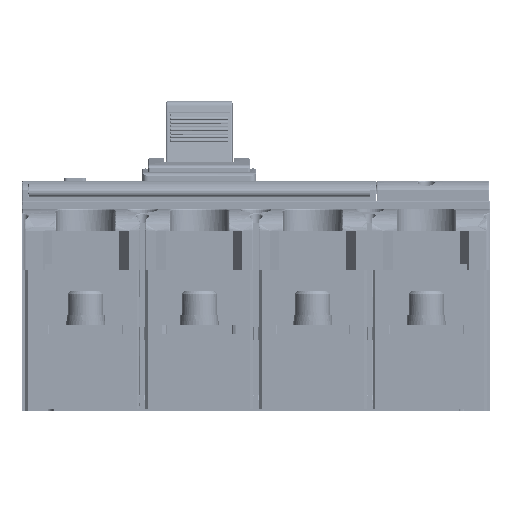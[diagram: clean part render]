
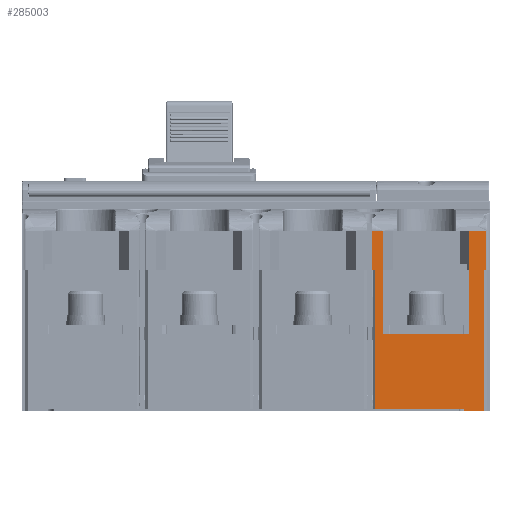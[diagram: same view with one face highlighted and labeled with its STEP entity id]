
A CAD part, front view. The second image highlights one B-rep face of the part: STEP entity #285003.
In plain terms, the highlighted planar face has unit normal (0, -1, 0) as drawn and (0, 0, 1) by its records, which use the part's own axes.
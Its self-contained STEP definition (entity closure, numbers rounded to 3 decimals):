
#503 = CARTESIAN_POINT ( 'NONE',  ( 135., 0., 135. ) ) ;
#4147 = EDGE_CURVE ( 'NONE', #15984, #69486, #223379, .T. ) ;
#5240 = DIRECTION ( 'NONE',  ( 1., 0., 0. ) ) ;
#9346 = ORIENTED_EDGE ( 'NONE', *, *, #260000, .F. ) ;
#10702 = CARTESIAN_POINT ( 'NONE',  ( 90., 72., 135. ) ) ;
#10705 = LINE ( 'NONE', #258005, #143796 ) ;
#15984 = VERTEX_POINT ( 'NONE', #43096 ) ;
#19915 = CARTESIAN_POINT ( 'NONE',  ( 146.6, 92., 135. ) ) ;
#20296 = CARTESIAN_POINT ( 'NONE',  ( 145.5, 0., 135. ) ) ;
#27821 = EDGE_CURVE ( 'NONE', #268840, #84584, #82806, .T. ) ;
#28002 = CARTESIAN_POINT ( 'NONE',  ( 138., 92., 135. ) ) ;
#31039 = CARTESIAN_POINT ( 'NONE',  ( 146.6, 72., 135. ) ) ;
#37115 = DIRECTION ( 'NONE',  ( 1., 0., 0. ) ) ;
#38114 = DIRECTION ( 'NONE',  ( 1., 0., 0. ) ) ;
#40074 = CARTESIAN_POINT ( 'NONE',  ( 135., 0., 135. ) ) ;
#40513 = VERTEX_POINT ( 'NONE', #220543 ) ;
#43096 = CARTESIAN_POINT ( 'NONE',  ( 135., 0., 135. ) ) ;
#47965 = VECTOR ( 'NONE', #214110, 1000. ) ;
#48533 = CARTESIAN_POINT ( 'NONE',  ( 90., 1., 135. ) ) ;
#54876 = ORIENTED_EDGE ( 'NONE', *, *, #4147, .F. ) ;
#55704 = LINE ( 'NONE', #302915, #101715 ) ;
#55745 = LINE ( 'NONE', #127353, #220468 ) ;
#55862 = VECTOR ( 'NONE', #58241, 1000. ) ;
#56629 = LINE ( 'NONE', #125026, #55862 ) ;
#58241 = DIRECTION ( 'NONE',  ( 0., 1., 0. ) ) ;
#60079 = VECTOR ( 'NONE', #38114, 1000. ) ;
#61250 = EDGE_CURVE ( 'NONE', #69486, #288305, #185652, .T. ) ;
#62880 = VERTEX_POINT ( 'NONE', #77956 ) ;
#64767 = CARTESIAN_POINT ( 'NONE',  ( 88.4, 92., 135. ) ) ;
#65238 = DIRECTION ( 'NONE',  ( -1., 0., 0. ) ) ;
#67462 = EDGE_CURVE ( 'NONE', #268840, #196306, #147152, .T. ) ;
#67947 = LINE ( 'NONE', #64767, #178374 ) ;
#68780 = LINE ( 'NONE', #19915, #77497 ) ;
#69486 = VERTEX_POINT ( 'NONE', #123590 ) ;
#72862 = DIRECTION ( 'NONE',  ( 0., -1., 0. ) ) ;
#74390 = CARTESIAN_POINT ( 'NONE',  ( 94., 92., 135. ) ) ;
#75343 = EDGE_CURVE ( 'NONE', #310828, #84741, #56629, .T. ) ;
#75360 = DIRECTION ( 'NONE',  ( 0., 1., 0. ) ) ;
#77497 = VECTOR ( 'NONE', #314378, 1000. ) ;
#77956 = CARTESIAN_POINT ( 'NONE',  ( 146.6, 92., 135. ) ) ;
#81203 = CARTESIAN_POINT ( 'NONE',  ( 88.4, 72., 135. ) ) ;
#82806 = LINE ( 'NONE', #81203, #278290 ) ;
#84584 = VERTEX_POINT ( 'NONE', #10702 ) ;
#84741 = VERTEX_POINT ( 'NONE', #313158 ) ;
#86084 = EDGE_LOOP ( 'NONE', ( #9346, #175958, #300193, #176419, #320979, #250276, #154689, #54876, #202660, #197680, #229070, #150286, #245344, #258607 ) ) ;
#96804 = DIRECTION ( 'NONE',  ( 1., 0., 0. ) ) ;
#97324 = VECTOR ( 'NONE', #75360, 1000. ) ;
#101715 = VECTOR ( 'NONE', #5240, 1000. ) ;
#102415 = VECTOR ( 'NONE', #220842, 1000. ) ;
#109932 = DIRECTION ( 'NONE',  ( 0., -1., 0. ) ) ;
#116066 = VECTOR ( 'NONE', #247969, 1000. ) ;
#117962 = PLANE ( 'NONE',  #239671 ) ;
#119985 = CARTESIAN_POINT ( 'NONE',  ( 138., 92., 135. ) ) ;
#123590 = CARTESIAN_POINT ( 'NONE',  ( 135., 1., 135. ) ) ;
#125026 = CARTESIAN_POINT ( 'NONE',  ( 145.5, 0., 135. ) ) ;
#127353 = CARTESIAN_POINT ( 'NONE',  ( 94., 39., 135. ) ) ;
#141295 = VERTEX_POINT ( 'NONE', #74390 ) ;
#142776 = CARTESIAN_POINT ( 'NONE',  ( 88.4, 92., 135. ) ) ;
#143796 = VECTOR ( 'NONE', #109932, 1000. ) ;
#147152 = LINE ( 'NONE', #272395, #116066 ) ;
#150286 = ORIENTED_EDGE ( 'NONE', *, *, #215096, .F. ) ;
#154036 = EDGE_CURVE ( 'NONE', #84741, #211636, #208938, .T. ) ;
#154689 = ORIENTED_EDGE ( 'NONE', *, *, #61250, .F. ) ;
#156455 = CARTESIAN_POINT ( 'NONE',  ( 94., 39., 135. ) ) ;
#161284 = VECTOR ( 'NONE', #65238, 1000. ) ;
#163128 = EDGE_CURVE ( 'NONE', #196306, #141295, #67947, .T. ) ;
#165387 = VERTEX_POINT ( 'NONE', #156455 ) ;
#165394 = VERTEX_POINT ( 'NONE', #28002 ) ;
#170444 = LINE ( 'NONE', #119985, #102415 ) ;
#170502 = LINE ( 'NONE', #176886, #300362 ) ;
#175958 = ORIENTED_EDGE ( 'NONE', *, *, #306384, .T. ) ;
#175994 = EDGE_CURVE ( 'NONE', #165394, #40513, #170502, .T. ) ;
#176419 = ORIENTED_EDGE ( 'NONE', *, *, #67462, .F. ) ;
#176886 = CARTESIAN_POINT ( 'NONE',  ( 138., 92., 135. ) ) ;
#178374 = VECTOR ( 'NONE', #37115, 1000. ) ;
#181284 = EDGE_CURVE ( 'NONE', #15984, #310828, #285715, .T. ) ;
#182044 = DIRECTION ( 'NONE',  ( 1., 0., 0. ) ) ;
#185652 = LINE ( 'NONE', #260459, #161284 ) ;
#196306 = VERTEX_POINT ( 'NONE', #142776 ) ;
#196640 = EDGE_CURVE ( 'NONE', #84584, #288305, #10705, .T. ) ;
#197680 = ORIENTED_EDGE ( 'NONE', *, *, #75343, .T. ) ;
#202660 = ORIENTED_EDGE ( 'NONE', *, *, #181284, .T. ) ;
#208938 = LINE ( 'NONE', #308141, #60079 ) ;
#211636 = VERTEX_POINT ( 'NONE', #31039 ) ;
#214110 = DIRECTION ( 'NONE',  ( 1., 0., 0. ) ) ;
#215096 = EDGE_CURVE ( 'NONE', #62880, #211636, #68780, .T. ) ;
#217182 = DIRECTION ( 'NONE',  ( 0., 0., 1. ) ) ;
#220431 = FACE_OUTER_BOUND ( 'NONE', #86084, .T. ) ;
#220468 = VECTOR ( 'NONE', #221810, 1000. ) ;
#220543 = CARTESIAN_POINT ( 'NONE',  ( 138., 39., 135. ) ) ;
#220842 = DIRECTION ( 'NONE',  ( 1., 0., 0. ) ) ;
#221810 = DIRECTION ( 'NONE',  ( 0., 1., 0. ) ) ;
#223379 = LINE ( 'NONE', #503, #97324 ) ;
#229070 = ORIENTED_EDGE ( 'NONE', *, *, #154036, .T. ) ;
#239671 = AXIS2_PLACEMENT_3D ( 'NONE', #269227, #217182, #96804 ) ;
#244113 = CARTESIAN_POINT ( 'NONE',  ( 88.4, 72., 135. ) ) ;
#245344 = ORIENTED_EDGE ( 'NONE', *, *, #248397, .F. ) ;
#247969 = DIRECTION ( 'NONE',  ( 0., 1., 0. ) ) ;
#248397 = EDGE_CURVE ( 'NONE', #165394, #62880, #170444, .T. ) ;
#250276 = ORIENTED_EDGE ( 'NONE', *, *, #196640, .T. ) ;
#258005 = CARTESIAN_POINT ( 'NONE',  ( 90., 72., 135. ) ) ;
#258607 = ORIENTED_EDGE ( 'NONE', *, *, #175994, .T. ) ;
#260000 = EDGE_CURVE ( 'NONE', #165387, #40513, #55704, .T. ) ;
#260459 = CARTESIAN_POINT ( 'NONE',  ( 135., 1., 135. ) ) ;
#268840 = VERTEX_POINT ( 'NONE', #244113 ) ;
#269227 = CARTESIAN_POINT ( 'NONE',  ( -90.5, 0., 135. ) ) ;
#272395 = CARTESIAN_POINT ( 'NONE',  ( 88.4, 72., 135. ) ) ;
#278290 = VECTOR ( 'NONE', #182044, 1000. ) ;
#285003 = ADVANCED_FACE ( 'NONE', ( #220431 ), #117962, .T. ) ;
#285715 = LINE ( 'NONE', #40074, #47965 ) ;
#288305 = VERTEX_POINT ( 'NONE', #48533 ) ;
#300193 = ORIENTED_EDGE ( 'NONE', *, *, #163128, .F. ) ;
#300362 = VECTOR ( 'NONE', #72862, 1000. ) ;
#302915 = CARTESIAN_POINT ( 'NONE',  ( 94., 39., 135. ) ) ;
#306384 = EDGE_CURVE ( 'NONE', #165387, #141295, #55745, .T. ) ;
#308141 = CARTESIAN_POINT ( 'NONE',  ( 145.5, 72., 135. ) ) ;
#310828 = VERTEX_POINT ( 'NONE', #20296 ) ;
#313158 = CARTESIAN_POINT ( 'NONE',  ( 145.5, 72., 135. ) ) ;
#314378 = DIRECTION ( 'NONE',  ( 0., -1., 0. ) ) ;
#320979 = ORIENTED_EDGE ( 'NONE', *, *, #27821, .T. ) ;
